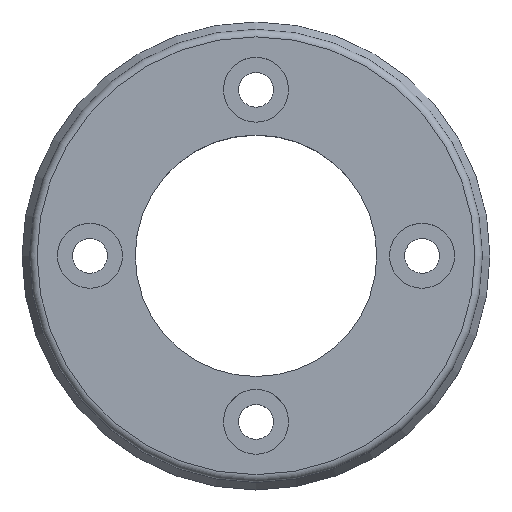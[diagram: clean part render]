
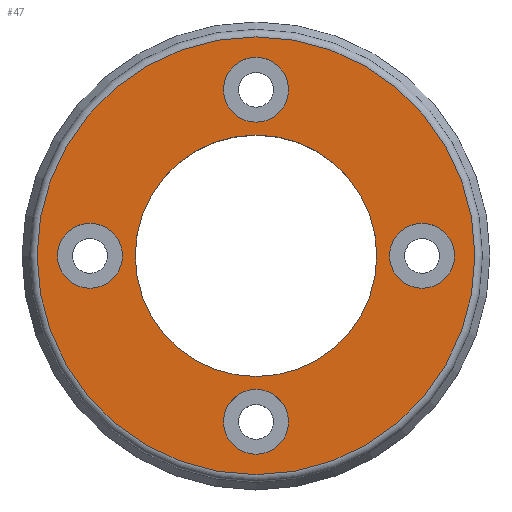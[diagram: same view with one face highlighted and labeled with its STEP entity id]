
A CAD part, top view. The second image highlights one B-rep face of the part: STEP entity #47.
In plain terms, the highlighted planar face has unit normal (0, 0, 1).
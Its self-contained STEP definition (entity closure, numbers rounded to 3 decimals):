
#47=ADVANCED_FACE('',(#73,#74,#75,#76,#77,#78),#67,.T.);
#67=PLANE('',#355);
#73=FACE_BOUND('',#121,.T.);
#74=FACE_BOUND('',#122,.T.);
#75=FACE_BOUND('',#123,.T.);
#76=FACE_BOUND('',#124,.T.);
#77=FACE_BOUND('',#125,.T.);
#78=FACE_BOUND('',#126,.T.);
#121=EDGE_LOOP('',(#169));
#122=EDGE_LOOP('',(#170));
#123=EDGE_LOOP('',(#171));
#124=EDGE_LOOP('',(#172));
#125=EDGE_LOOP('',(#173));
#126=EDGE_LOOP('',(#174));
#169=ORIENTED_EDGE('',*,*,#241,.T.);
#170=ORIENTED_EDGE('',*,*,#242,.T.);
#171=ORIENTED_EDGE('',*,*,#243,.T.);
#172=ORIENTED_EDGE('',*,*,#244,.T.);
#173=ORIENTED_EDGE('',*,*,#245,.T.);
#174=ORIENTED_EDGE('',*,*,#246,.T.);
#217=VERTEX_POINT('',#504);
#218=VERTEX_POINT('',#506);
#219=VERTEX_POINT('',#508);
#220=VERTEX_POINT('',#510);
#221=VERTEX_POINT('',#512);
#222=VERTEX_POINT('',#514);
#241=EDGE_CURVE('',#217,#217,#269,.T.);
#242=EDGE_CURVE('',#218,#218,#270,.T.);
#243=EDGE_CURVE('',#219,#219,#271,.T.);
#244=EDGE_CURVE('',#220,#220,#272,.T.);
#245=EDGE_CURVE('',#221,#221,#273,.T.);
#246=EDGE_CURVE('',#222,#222,#274,.T.);
#269=CIRCLE('',#349,14.5);
#270=CIRCLE('',#350,2.15);
#271=CIRCLE('',#351,2.15);
#272=CIRCLE('',#352,8.);
#273=CIRCLE('',#353,2.15);
#274=CIRCLE('',#354,2.15);
#349=AXIS2_PLACEMENT_3D('',#503,#406,#407);
#350=AXIS2_PLACEMENT_3D('',#505,#408,#409);
#351=AXIS2_PLACEMENT_3D('',#507,#410,#411);
#352=AXIS2_PLACEMENT_3D('',#509,#412,#413);
#353=AXIS2_PLACEMENT_3D('',#511,#414,#415);
#354=AXIS2_PLACEMENT_3D('',#513,#416,#417);
#355=AXIS2_PLACEMENT_3D('',#515,#418,#419);
#406=DIRECTION('',(0.,0.,1.));
#407=DIRECTION('',(1.,0.,0.));
#408=DIRECTION('',(0.,0.,-1.));
#409=DIRECTION('',(0.,1.,0.));
#410=DIRECTION('',(0.,0.,-1.));
#411=DIRECTION('',(0.,-1.,0.));
#412=DIRECTION('',(0.,0.,-1.));
#413=DIRECTION('',(-1.,0.,0.));
#414=DIRECTION('',(0.,0.,-1.));
#415=DIRECTION('',(1.,0.,0.));
#416=DIRECTION('',(0.,0.,-1.));
#417=DIRECTION('',(-1.,0.,0.));
#418=DIRECTION('',(0.,0.,1.));
#419=DIRECTION('',(1.,0.,0.));
#503=CARTESIAN_POINT('',(0.,0.,9.8));
#504=CARTESIAN_POINT('',(14.5,0.,9.8));
#505=CARTESIAN_POINT('',(0.,-11.,9.8));
#506=CARTESIAN_POINT('',(0.,-8.85,9.8));
#507=CARTESIAN_POINT('',(0.,11.,9.8));
#508=CARTESIAN_POINT('',(0.,8.85,9.8));
#509=CARTESIAN_POINT('',(0.,0.,9.8));
#510=CARTESIAN_POINT('',(-8.,0.,9.8));
#511=CARTESIAN_POINT('',(-11.,0.,9.8));
#512=CARTESIAN_POINT('',(-8.85,0.,9.8));
#513=CARTESIAN_POINT('',(11.,0.,9.8));
#514=CARTESIAN_POINT('',(8.85,0.,9.8));
#515=CARTESIAN_POINT('',(0.,0.,9.8));
